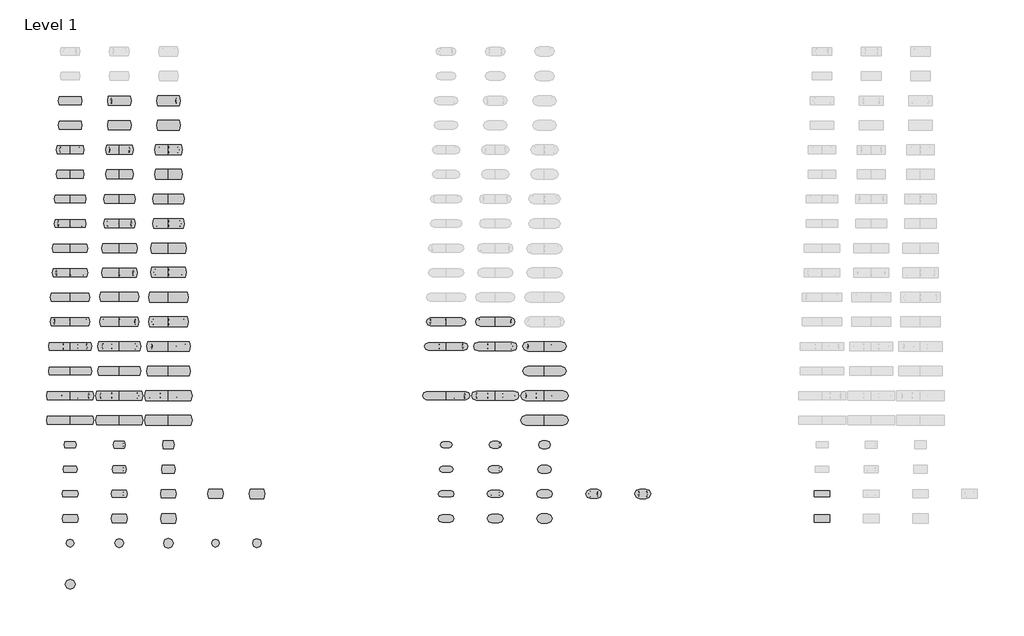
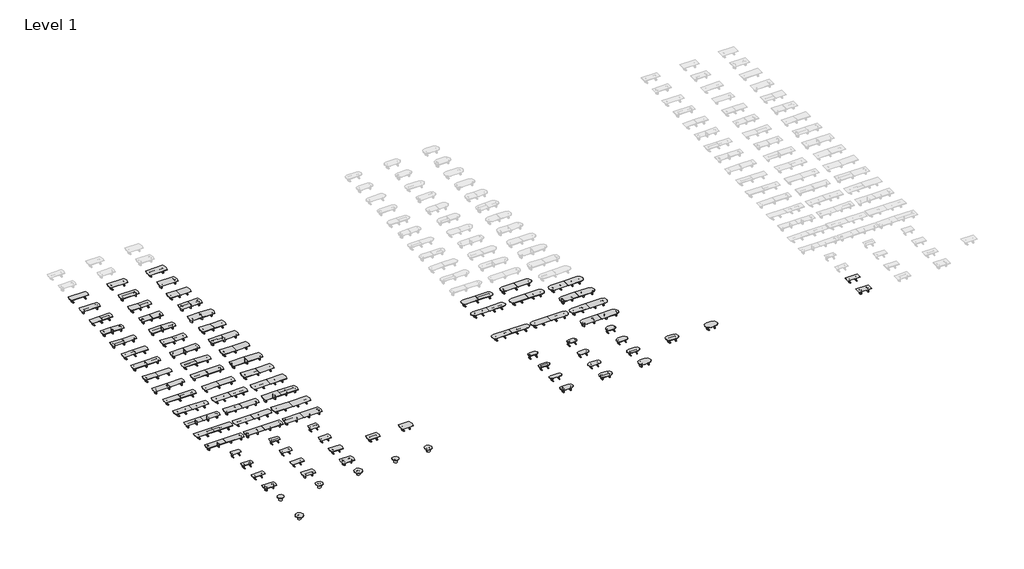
# One storey, part 1 of 3: 88 furniture elements.
"""IFC4 building model written with IfcOpenShell, lengths in millimetres."""

from ifc_helpers import new_model, si_unit, origin, place, context, project, spatial, transform, mapped, element, save
from components import furniture_36d_90888d20, furniture_36d_b0a119d2, furniture_36d_85cf5dbd, furniture_36d_65bd826c, furniture_36d_105f3647, furniture_36d_a4c65f50, furniture_36d_778fa427, furniture_42d_39f42cd1, furniture_42d_598d6e4a, furniture_42d_1a5c040f, furniture_42d_15517e0b, furniture_42d_837e3238, furniture_42d_156f3e94, furniture_48d_d70740bd, furniture_48d_c501f17e, furniture_48d_4c6bb4a2, furniture_48d_42d3a3b3, furniture_48d_33020ef1, furniture_48d_52e363a8, furniture_48d_5b8af901, furniture_48d_18b31c41, furniture_48d_39ecba71, furniture_48d_5b0fad48, furniture_48d_7a09ad00, furniture_48d_a73211f9, furniture_48d_5249ccaa, furniture_48d_af3dbdf1, furniture_48d_a914894a, furniture_48d_de5d3923, furniture_48d_c1489872, furniture_48d_b52bec6d, furniture_48d_55abd864, furniture_48d_6699b437, furniture_48d_e1b3172b, furniture_48d_4654b211, furniture_48d_b879e8bd, furniture_48d_139d7b73, furniture_48d_8a235267, furniture_48d_a0592bcc, furniture_48dia_laminate_7345cb1a, furniture_54d_cd79a7e8, furniture_54d_c281087e, furniture_54d_10f6a0d3, furniture_54d_50f8136e, furniture_54d_fdfb3cb8, furniture_54d_60159ee5, furniture_54d_1e4cc773, furniture_54d_85b6f77c, furniture_54d_fb529151, furniture_54d_86afbeeb, furniture_54d_db408c70, furniture_54d_e478c1e4, furniture_54d_4388903f, furniture_54d_81510d21, furniture_54d_43be985f, furniture_54d_9dfbddc2, furniture_54d_be0ee450, furniture_54d_ad1e54f7, furniture_54d_8884b3d5, furniture_54d_b8cd5568, furniture_54d_e9059d03, furniture_54dia_laminate_28bc5881, furniture_60d_133c9e18, furniture_60d_de2b4f89, furniture_60d_289ce9ac, furniture_60d_3bc78be8, furniture_60d_98e69a0a, furniture_60d_2776d96e, furniture_60d_e359e779, furniture_60d_94475512, furniture_60d_b6e10d91, furniture_60d_2c266338, furniture_60d_94ecbd19, furniture_60d_ac7cfff5, furniture_60d_aebbef4b, furniture_60d_6ced5be0, furniture_60d_7845ec57, furniture_60d_34ab8fc2, furniture_60d_ddcb2d8b, furniture_60d_2d9ece58, furniture_60d_6072927f, furniture_60d_cc4c99b4, furniture_60d_fc82c83b, furniture_60d_7dae6446, furniture_60dia_laminate_3f468efb

model = new_model("IFC4")

# Units and contexts
model_context = context("Model", 3, world=origin())
ifc_project = project(units=[si_unit("LENGTHUNIT", "METRE", prefix="MILLI")], contexts=[model_context])

# Site, building, storey
site = spatial("IfcSite", under=ifc_project)
building = spatial("IfcBuilding", under=site)
storey = spatial("IfcBuildingStorey", under=building, Name="Level 1", Elevation=0.0)

# Furniture
placement = place(None, origin())
furniture_36d_shape = furniture_36d_90888d20(model_context)
element("IfcFurniture", 1, ObjectType="Coalesse_AM_Table_Conference_ETable2_Rectangular_96in_AluminiumBase : 36D", at=placement, inside=storey, context=model_context, shape_type="MappedRepresentation", body=[
    mapped(furniture_36d_shape, transform((890409.9142043, -64461.6858647, 0.0), x_axis=(1.0, 0.0, 0.0), y_axis=(0.0, 1.0, 0.0), z_axis=(0.0, 0.0, 1.0))),
])
furniture_36d_2_shape = furniture_36d_b0a119d2(model_context)
element("IfcFurniture", 2, ObjectType="Coalesse_AM_Table_Conference_ETable2_Faceted_72in_AluminiumBase : 36D", at=placement, inside=storey, context=model_context, shape_type="MappedRepresentation", body=[
    mapped(furniture_36d_2_shape, transform((773859.3766429, -56841.6858647, 0.0), x_axis=(1.0, 0.0, 0.0), y_axis=(0.0, 1.0, 0.0), z_axis=(0.0, 0.0, 1.0))),
])
furniture_36d_3_shape = furniture_36d_85cf5dbd(model_context)
element("IfcFurniture", 3, ObjectType="Coalesse_AM_Table_Conference_ETable2_Faceted_84in_AluminiumBase : 36D", at=placement, inside=storey, context=model_context, shape_type="MappedRepresentation", body=[
    mapped(furniture_36d_3_shape, transform((773859.3766429, -60651.6858647, 0.0), x_axis=(1.0, 0.0, 0.0), y_axis=(0.0, 1.0, 0.0), z_axis=(0.0, 0.0, 1.0))),
])
furniture_36d_4_shape = furniture_36d_65bd826c(model_context)
element("IfcFurniture", 4, ObjectType="Coalesse_AM_Table_Conference_ETable2_Faceted_96in_AluminiumBase : 36D", at=placement, inside=storey, context=model_context, shape_type="MappedRepresentation", body=[
    mapped(furniture_36d_4_shape, transform((773859.3766429, -64461.6858647, 0.0), x_axis=(1.0, 0.0, 0.0), y_axis=(0.0, 1.0, 0.0), z_axis=(0.0, 0.0, 1.0))),
])
furniture_36d_5_shape = furniture_36d_105f3647(model_context)
element("IfcFurniture", 5, ObjectType="Coalesse_AM_Table_Conference_ETable2_Racetrack_72in_AluminiumBase : 36D", at=placement, inside=storey, context=model_context, shape_type="MappedRepresentation", body=[
    mapped(furniture_36d_5_shape, transform((832134.6454236, -56841.6858647, 0.0), x_axis=(1.0, 0.0, 0.0), y_axis=(0.0, 1.0, 0.0), z_axis=(0.0, 0.0, 1.0))),
])
furniture_36d_6_shape = furniture_36d_a4c65f50(model_context)
element("IfcFurniture", 6, ObjectType="Coalesse_AM_Table_Conference_ETable2_Racetrack_84in_AluminiumBase : 36D", at=placement, inside=storey, context=model_context, shape_type="MappedRepresentation", body=[
    mapped(furniture_36d_6_shape, transform((832134.6454236, -60651.6858647, 0.0), x_axis=(1.0, 0.0, 0.0), y_axis=(0.0, 1.0, 0.0), z_axis=(0.0, 0.0, 1.0))),
])
furniture_36d_7_shape = furniture_36d_778fa427(model_context)
element("IfcFurniture", 7, ObjectType="Coalesse_AM_Table_Conference_ETable2_Racetrack_96in_AluminiumBase : 36D", at=placement, inside=storey, context=model_context, shape_type="MappedRepresentation", body=[
    mapped(furniture_36d_7_shape, transform((832134.6454236, -64461.6858647, 0.0), x_axis=(1.0, 0.0, 0.0), y_axis=(0.0, 1.0, 0.0), z_axis=(0.0, 0.0, 1.0))),
])
furniture_42d_shape = furniture_42d_39f42cd1(model_context)
element("IfcFurniture", 8, ObjectType="Coalesse_AM_Table_Conference_ETable2_Faceted_72in_AluminiumBase : 42D", at=placement, inside=storey, context=model_context, shape_type="MappedRepresentation", body=[
    mapped(furniture_42d_shape, transform((781479.3766429, -56841.6858647, 0.0), x_axis=(1.0, 0.0, 0.0), y_axis=(0.0, 1.0, 0.0), z_axis=(0.0, 0.0, 1.0))),
])
furniture_42d_2_shape = furniture_42d_598d6e4a(model_context)
element("IfcFurniture", 9, ObjectType="Coalesse_AM_Table_Conference_ETable2_Faceted_84in_AluminiumBase : 42D", at=placement, inside=storey, context=model_context, shape_type="MappedRepresentation", body=[
    mapped(furniture_42d_2_shape, transform((781479.3766429, -60651.6858647, 0.0), x_axis=(1.0, 0.0, 0.0), y_axis=(0.0, 1.0, 0.0), z_axis=(0.0, 0.0, 1.0))),
])
furniture_42d_3_shape = furniture_42d_1a5c040f(model_context)
element("IfcFurniture", 10, ObjectType="Coalesse_AM_Table_Conference_ETable2_Faceted_96in_AluminiumBase : 42D", at=placement, inside=storey, context=model_context, shape_type="MappedRepresentation", body=[
    mapped(furniture_42d_3_shape, transform((781479.3766429, -64461.6858647, 0.0), x_axis=(1.0, 0.0, 0.0), y_axis=(0.0, 1.0, 0.0), z_axis=(0.0, 0.0, 1.0))),
])
furniture_42d_4_shape = furniture_42d_15517e0b(model_context)
element("IfcFurniture", 11, ObjectType="Coalesse_AM_Table_Conference_ETable2_Racetrack_72in_AluminiumBase : 42D", at=placement, inside=storey, context=model_context, shape_type="MappedRepresentation", body=[
    mapped(furniture_42d_4_shape, transform((839754.6454236, -56841.6858647, 0.0), x_axis=(1.0, 0.0, 0.0), y_axis=(0.0, 1.0, 0.0), z_axis=(0.0, 0.0, 1.0))),
])
furniture_42d_5_shape = furniture_42d_837e3238(model_context)
element("IfcFurniture", 12, ObjectType="Coalesse_AM_Table_Conference_ETable2_Racetrack_84in_AluminiumBase : 42D", at=placement, inside=storey, context=model_context, shape_type="MappedRepresentation", body=[
    mapped(furniture_42d_5_shape, transform((839754.6454236, -60651.6858647, 0.0), x_axis=(1.0, 0.0, 0.0), y_axis=(0.0, 1.0, 0.0), z_axis=(0.0, 0.0, 1.0))),
])
furniture_42d_6_shape = furniture_42d_156f3e94(model_context)
element("IfcFurniture", 13, ObjectType="Coalesse_AM_Table_Conference_ETable2_Racetrack_96in_AluminiumBase : 42D", at=placement, inside=storey, context=model_context, shape_type="MappedRepresentation", body=[
    mapped(furniture_42d_6_shape, transform((839754.6454236, -64461.6858647, 0.0), x_axis=(1.0, 0.0, 0.0), y_axis=(0.0, 1.0, 0.0), z_axis=(0.0, 0.0, 1.0))),
])
furniture_48d_shape = furniture_48d_d70740bd(model_context)
element("IfcFurniture", 14, ObjectType="Coalesse_AM_Table_Conference_ETable2_Rectangular_96in_TwoBase : 48D", at=placement, inside=storey, context=model_context, shape_type="MappedRepresentation", body=[
    mapped(furniture_48d_shape, transform((890409.9142043, -68271.6858647, 0.0), x_axis=(1.0, 0.0, 0.0), y_axis=(0.0, 1.0, 0.0), z_axis=(0.0, 0.0, 1.0))),
])
furniture_48d_2_shape = furniture_48d_c501f17e(model_context)
element("IfcFurniture", 15, ObjectType="Coalesse_AM_Table_Conference_ETable2_Faceted_12ft_AluminiumBase : 48D", at=placement, inside=storey, context=model_context, shape_type="MappedRepresentation", body=[
    mapped(furniture_48d_2_shape, transform((773859.3766429, -3501.6858647, 0.0), x_axis=(1.0, 0.0, 0.0), y_axis=(0.0, 1.0, 0.0), z_axis=(0.0, 0.0, 1.0))),
])
furniture_48d_3_shape = furniture_48d_4c6bb4a2(model_context)
element("IfcFurniture", 16, ObjectType="Coalesse_AM_Table_Conference_ETable2_Faceted_12ft_TwoBase : 48D", at=placement, inside=storey, context=model_context, shape_type="MappedRepresentation", body=[
    mapped(furniture_48d_3_shape, transform((773859.3766429, -7311.6858647, 0.0), x_axis=(1.0, 0.0, 0.0), y_axis=(0.0, 1.0, 0.0), z_axis=(0.0, 0.0, 1.0))),
])
furniture_48d_4_shape = furniture_48d_42d3a3b3(model_context)
element("IfcFurniture", 17, ObjectType="Coalesse_AM_Table_Conference_ETable2_Faceted_14ft_Aluminium Base : 48D", at=placement, inside=storey, context=model_context, shape_type="MappedRepresentation", body=[
    mapped(furniture_48d_4_shape, transform((773859.3766429, -11121.6858647, 0.0), x_axis=(1.0, 0.0, 0.0), y_axis=(0.0, 1.0, 0.0), z_axis=(0.0, 0.0, 1.0))),
])
furniture_48d_5_shape = furniture_48d_33020ef1(model_context)
element("IfcFurniture", 18, ObjectType="Coalesse_AM_Table_Conference_ETable2_Faceted_14ft_ThreeBase : 48D", at=placement, inside=storey, context=model_context, shape_type="MappedRepresentation", body=[
    mapped(furniture_48d_5_shape, transform((773859.3766429, -14931.6858647, 0.0), x_axis=(1.0, 0.0, 0.0), y_axis=(0.0, 1.0, 0.0), z_axis=(0.0, 0.0, 1.0))),
])
furniture_48d_6_shape = furniture_48d_52e363a8(model_context)
element("IfcFurniture", 19, ObjectType="Coalesse_AM_Table_Conference_ETable2_Faceted_16ft_ThreeBase : 48D", at=placement, inside=storey, context=model_context, shape_type="MappedRepresentation", body=[
    mapped(furniture_48d_6_shape, transform((773859.3766429, -18741.6858647, 0.0), x_axis=(1.0, 0.0, 0.0), y_axis=(0.0, 1.0, 0.0), z_axis=(0.0, 0.0, 1.0))),
])
furniture_48d_7_shape = furniture_48d_5b8af901(model_context)
element("IfcFurniture", 20, ObjectType="Coalesse_AM_Table_Conference_ETable2_Faceted_16ft_AluminiumBase : 48D", at=placement, inside=storey, context=model_context, shape_type="MappedRepresentation", body=[
    mapped(furniture_48d_7_shape, transform((773859.3766429, -22551.6858647, 0.0), x_axis=(1.0, 0.0, 0.0), y_axis=(0.0, 1.0, 0.0), z_axis=(0.0, 0.0, 1.0))),
])
furniture_48d_8_shape = furniture_48d_18b31c41(model_context)
element("IfcFurniture", 21, ObjectType="Coalesse_AM_Table_Conference_ETable2_Faceted_18ft_AluminiumBase : 48D", at=placement, inside=storey, context=model_context, shape_type="MappedRepresentation", body=[
    mapped(furniture_48d_8_shape, transform((773859.3766429, -30171.6858647, 0.0), x_axis=(1.0, 0.0, 0.0), y_axis=(0.0, 1.0, 0.0), z_axis=(0.0, 0.0, 1.0))),
])
furniture_48d_9_shape = furniture_48d_39ecba71(model_context)
element("IfcFurniture", 22, ObjectType="Coalesse_AM_Table_Conference_ETable2_Faceted_18ft_ThreeBase : 48D", at=placement, inside=storey, context=model_context, shape_type="MappedRepresentation", body=[
    mapped(furniture_48d_9_shape, transform((773859.3766429, -26361.6858647, 0.0), x_axis=(1.0, 0.0, 0.0), y_axis=(0.0, 1.0, 0.0), z_axis=(0.0, 0.0, 1.0))),
])
furniture_48d_10_shape = furniture_48d_5b0fad48(model_context)
element("IfcFurniture", 23, ObjectType="Coalesse_AM_Table_Conference_ETable2_Faceted_20ft_AluminiumBase : 48D", at=placement, inside=storey, context=model_context, shape_type="MappedRepresentation", body=[
    mapped(furniture_48d_10_shape, transform((773859.3766429, -37791.6858647, 0.0), x_axis=(1.0, 0.0, 0.0), y_axis=(0.0, 1.0, 0.0), z_axis=(0.0, 0.0, 1.0))),
])
furniture_48d_11_shape = furniture_48d_7a09ad00(model_context)
element("IfcFurniture", 24, ObjectType="Coalesse_AM_Table_Conference_ETable2_Faceted_20ft_ThreeBase : 48D", at=placement, inside=storey, context=model_context, shape_type="MappedRepresentation", body=[
    mapped(furniture_48d_11_shape, transform((773859.3766429, -33981.6858647, 0.0), x_axis=(1.0, 0.0, 0.0), y_axis=(0.0, 1.0, 0.0), z_axis=(0.0, 0.0, 1.0))),
])
furniture_48d_12_shape = furniture_48d_a73211f9(model_context)
element("IfcFurniture", 25, ObjectType="Coalesse_AM_Table_Conference_ETable2_Faceted_22ft_AluminiumBase : 48D", at=placement, inside=storey, context=model_context, shape_type="MappedRepresentation", body=[
    mapped(furniture_48d_12_shape, transform((773859.3766429, -41601.6858647, 0.0), x_axis=(1.0, 0.0, 0.0), y_axis=(0.0, 1.0, 0.0), z_axis=(0.0, 0.0, 1.0))),
])
furniture_48d_13_shape = furniture_48d_5249ccaa(model_context)
element("IfcFurniture", 26, ObjectType="Coalesse_AM_Table_Conference_ETable2_Faceted_22ft_FourBase : 48D", at=placement, inside=storey, context=model_context, shape_type="MappedRepresentation", body=[
    mapped(furniture_48d_13_shape, transform((773859.3766429, -45411.6858647, 0.0), x_axis=(1.0, 0.0, 0.0), y_axis=(0.0, 1.0, 0.0), z_axis=(0.0, 0.0, 1.0))),
])
furniture_48d_14_shape = furniture_48d_af3dbdf1(model_context)
element("IfcFurniture", 27, ObjectType="Coalesse_AM_Table_Conference_ETable2_Faceted_24ft_AluminiumBase : 48D", at=placement, inside=storey, context=model_context, shape_type="MappedRepresentation", body=[
    mapped(furniture_48d_14_shape, transform((773859.3766429, -49221.6858647, 0.0), x_axis=(1.0, 0.0, 0.0), y_axis=(0.0, 1.0, 0.0), z_axis=(0.0, 0.0, 1.0))),
])
furniture_48d_15_shape = furniture_48d_a914894a(model_context)
element("IfcFurniture", 28, ObjectType="Coalesse_AM_Table_Conference_ETable2_Faceted_24ft_FourBase : 48D", at=placement, inside=storey, context=model_context, shape_type="MappedRepresentation", body=[
    mapped(furniture_48d_15_shape, transform((773859.3766429, -53031.6858647, 0.0), x_axis=(1.0, 0.0, 0.0), y_axis=(0.0, 1.0, 0.0), z_axis=(0.0, 0.0, 1.0))),
])
furniture_48d_16_shape = furniture_48d_de5d3923(model_context)
element("IfcFurniture", 29, ObjectType="Coalesse_AM_Table_Conference_ETable2_Faceted_72in_AluminiumBase : 48D", at=placement, inside=storey, context=model_context, shape_type="MappedRepresentation", body=[
    mapped(furniture_48d_16_shape, transform((789099.3766429, -56841.6858647, 0.0), x_axis=(1.0, 0.0, 0.0), y_axis=(0.0, 1.0, 0.0), z_axis=(0.0, 0.0, 1.0))),
])
furniture_48d_17_shape = furniture_48d_c1489872(model_context)
element("IfcFurniture", 30, ObjectType="Coalesse_AM_Table_Conference_ETable2_Faceted_84in_AluminiumBase : 48D", at=placement, inside=storey, context=model_context, shape_type="MappedRepresentation", body=[
    mapped(furniture_48d_17_shape, transform((789099.3766429, -60651.6858647, 0.0), x_axis=(1.0, 0.0, 0.0), y_axis=(0.0, 1.0, 0.0), z_axis=(0.0, 0.0, 1.0))),
])
furniture_48d_18_shape = furniture_48d_b52bec6d(model_context)
element("IfcFurniture", 31, ObjectType="Coalesse_AM_Table_Conference_ETable2_Faceted_96in_AluminiumBase : 48D", at=placement, inside=storey, context=model_context, shape_type="MappedRepresentation", body=[
    mapped(furniture_48d_18_shape, transform((789099.3766429, -64461.6858647, 0.0), x_axis=(1.0, 0.0, 0.0), y_axis=(0.0, 1.0, 0.0), z_axis=(0.0, 0.0, 1.0))),
])
furniture_48d_19_shape = furniture_48d_55abd864(model_context)
element("IfcFurniture", 32, ObjectType="Coalesse_AM_Table_Conference_ETable2_Faceted_96in_TwoBase : 48D", at=placement, inside=storey, context=model_context, shape_type="MappedRepresentation", body=[
    mapped(furniture_48d_19_shape, transform((773859.3766429, -68271.6858647, 0.0), x_axis=(1.0, 0.0, 0.0), y_axis=(0.0, 1.0, 0.0), z_axis=(0.0, 0.0, 1.0))),
])
furniture_48d_20_shape = furniture_48d_6699b437(model_context)
element("IfcFurniture", 33, ObjectType="Coalesse_AM_Table_Conference_ETable2_Racetrack_72in_AluminiumBase : 48D", at=placement, inside=storey, context=model_context, shape_type="MappedRepresentation", body=[
    mapped(furniture_48d_20_shape, transform((847374.6454236, -56841.6858647, 0.0), x_axis=(1.0, 0.0, 0.0), y_axis=(0.0, 1.0, 0.0), z_axis=(0.0, 0.0, 1.0))),
])
furniture_48d_21_shape = furniture_48d_e1b3172b(model_context)
element("IfcFurniture", 34, ObjectType="Coalesse_AM_Table_Conference_ETable2_Racetrack_20ft_AluminiumBase : 48D", at=placement, inside=storey, context=model_context, shape_type="MappedRepresentation", body=[
    mapped(furniture_48d_21_shape, transform((832134.6454236, -37791.6858647, 0.0), x_axis=(1.0, 0.0, 0.0), y_axis=(0.0, 1.0, 0.0), z_axis=(0.0, 0.0, 1.0))),
])
furniture_48d_22_shape = furniture_48d_4654b211(model_context)
element("IfcFurniture", 35, ObjectType="Coalesse_AM_Table_Conference_ETable2_Racetrack_22ft_AluminiumBase : 48D", at=placement, inside=storey, context=model_context, shape_type="MappedRepresentation", body=[
    mapped(furniture_48d_22_shape, transform((832134.6454236, -41601.6858647, 0.0), x_axis=(1.0, 0.0, 0.0), y_axis=(0.0, 1.0, 0.0), z_axis=(0.0, 0.0, 1.0))),
])
furniture_48d_23_shape = furniture_48d_b879e8bd(model_context)
element("IfcFurniture", 36, ObjectType="Coalesse_AM_Table_Conference_ETable2_Racetrack_24ft_AluminiumBase : 48D", at=placement, inside=storey, context=model_context, shape_type="MappedRepresentation", body=[
    mapped(furniture_48d_23_shape, transform((832134.6454236, -49221.6858647, 0.0), x_axis=(1.0, 0.0, 0.0), y_axis=(0.0, 1.0, 0.0), z_axis=(0.0, 0.0, 1.0))),
])
furniture_48d_24_shape = furniture_48d_139d7b73(model_context)
element("IfcFurniture", 37, ObjectType="Coalesse_AM_Table_Conference_ETable2_Racetrack_84in_AluminiumBase : 48D", at=placement, inside=storey, context=model_context, shape_type="MappedRepresentation", body=[
    mapped(furniture_48d_24_shape, transform((847374.6454236, -60651.6858647, 0.0), x_axis=(1.0, 0.0, 0.0), y_axis=(0.0, 1.0, 0.0), z_axis=(0.0, 0.0, 1.0))),
])
furniture_48d_25_shape = furniture_48d_8a235267(model_context)
element("IfcFurniture", 38, ObjectType="Coalesse_AM_Table_Conference_ETable2_Racetrack_96in_AluminiumBase : 48D", at=placement, inside=storey, context=model_context, shape_type="MappedRepresentation", body=[
    mapped(furniture_48d_25_shape, transform((847374.6454236, -64461.6858647, 0.0), x_axis=(1.0, 0.0, 0.0), y_axis=(0.0, 1.0, 0.0), z_axis=(0.0, 0.0, 1.0))),
])
furniture_48d_26_shape = furniture_48d_a0592bcc(model_context)
element("IfcFurniture", 39, ObjectType="Coalesse_AM_Table_Conference_ETable2_Racetrack_96in_TwoBase : 48D", at=placement, inside=storey, context=model_context, shape_type="MappedRepresentation", body=[
    mapped(furniture_48d_26_shape, transform((832134.6454236, -68271.6858647, 0.0), x_axis=(1.0, 0.0, 0.0), y_axis=(0.0, 1.0, 0.0), z_axis=(0.0, 0.0, 1.0))),
])
furniture_48dia_laminate_shape = furniture_48dia_laminate_7345cb1a(model_context)
element("IfcFurniture", 40, ObjectType="Coalesse_AM_Table_Conference_ETable2_Round : 48Dia - Laminate", at=placement, inside=storey, context=model_context, shape_type="MappedRepresentation", body=[
    mapped(furniture_48dia_laminate_shape, transform((773859.3766429, -72081.6858647, 0.0), x_axis=(1.0, 0.0, 0.0), y_axis=(0.0, 1.0, 0.0), z_axis=(0.0, 0.0, 1.0))),
])
element("IfcFurniture", 41, ObjectType="Coalesse_AM_Table_Conference_ETable2_Round : 48Dia - Veneer", at=placement, inside=storey, context=model_context, shape_type="MappedRepresentation", body=[
    mapped(furniture_48dia_laminate_shape, transform((796388.9637927, -72081.6858647, 0.0), x_axis=(1.0, 0.0, 0.0), y_axis=(0.0, 1.0, 0.0), z_axis=(0.0, 0.0, 1.0))),
])
furniture_54d_shape = furniture_54d_cd79a7e8(model_context)
element("IfcFurniture", 42, ObjectType="Coalesse_AM_Table_Conference_ETable2_Faceted_96in_AluminiumBase : 54D", at=placement, inside=storey, context=model_context, shape_type="MappedRepresentation", body=[
    mapped(furniture_54d_shape, transform((796388.9637927, -64461.6858647, 0.0), x_axis=(1.0, 0.0, 0.0), y_axis=(0.0, 1.0, 0.0), z_axis=(0.0, 0.0, 1.0))),
])
furniture_54d_2_shape = furniture_54d_c281087e(model_context)
element("IfcFurniture", 43, ObjectType="Coalesse_AM_Table_Conference_ETable2_Faceted_12ft_AluminiumBase : 54D", at=placement, inside=storey, context=model_context, shape_type="MappedRepresentation", body=[
    mapped(furniture_54d_2_shape, transform((781479.3766429, -3501.6858647, 0.0), x_axis=(1.0, 0.0, 0.0), y_axis=(0.0, 1.0, 0.0), z_axis=(0.0, 0.0, 1.0))),
])
furniture_54d_3_shape = furniture_54d_10f6a0d3(model_context)
element("IfcFurniture", 44, ObjectType="Coalesse_AM_Table_Conference_ETable2_Faceted_12ft_TwoBase : 54D", at=placement, inside=storey, context=model_context, shape_type="MappedRepresentation", body=[
    mapped(furniture_54d_3_shape, transform((781479.3766429, -7311.6858647, 0.0), x_axis=(1.0, 0.0, 0.0), y_axis=(0.0, 1.0, 0.0), z_axis=(0.0, 0.0, 1.0))),
])
furniture_54d_4_shape = furniture_54d_50f8136e(model_context)
element("IfcFurniture", 45, ObjectType="Coalesse_AM_Table_Conference_ETable2_Faceted_14ft_Aluminium Base : 54D", at=placement, inside=storey, context=model_context, shape_type="MappedRepresentation", body=[
    mapped(furniture_54d_4_shape, transform((781479.3766429, -11096.2858647, 0.0), x_axis=(1.0, 0.0, 0.0), y_axis=(0.0, 1.0, 0.0), z_axis=(0.0, 0.0, 1.0))),
])
furniture_54d_5_shape = furniture_54d_fdfb3cb8(model_context)
element("IfcFurniture", 46, ObjectType="Coalesse_AM_Table_Conference_ETable2_Faceted_14ft_ThreeBase : 54D", at=placement, inside=storey, context=model_context, shape_type="MappedRepresentation", body=[
    mapped(furniture_54d_5_shape, transform((781479.3766429, -14931.6858647, 0.0), x_axis=(1.0, 0.0, 0.0), y_axis=(0.0, 1.0, 0.0), z_axis=(0.0, 0.0, 1.0))),
])
furniture_54d_6_shape = furniture_54d_60159ee5(model_context)
element("IfcFurniture", 47, ObjectType="Coalesse_AM_Table_Conference_ETable2_Faceted_16ft_ThreeBase : 54D", at=placement, inside=storey, context=model_context, shape_type="MappedRepresentation", body=[
    mapped(furniture_54d_6_shape, transform((781479.3766429, -18741.6858647, 0.0), x_axis=(1.0, 0.0, 0.0), y_axis=(0.0, 1.0, 0.0), z_axis=(0.0, 0.0, 1.0))),
])
furniture_54d_7_shape = furniture_54d_1e4cc773(model_context)
element("IfcFurniture", 48, ObjectType="Coalesse_AM_Table_Conference_ETable2_Faceted_16ft_AluminiumBase : 54D", at=placement, inside=storey, context=model_context, shape_type="MappedRepresentation", body=[
    mapped(furniture_54d_7_shape, transform((781479.3766429, -22551.6858647, 0.0), x_axis=(1.0, 0.0, 0.0), y_axis=(0.0, 1.0, 0.0), z_axis=(0.0, 0.0, 1.0))),
])
furniture_54d_8_shape = furniture_54d_85b6f77c(model_context)
element("IfcFurniture", 49, ObjectType="Coalesse_AM_Table_Conference_ETable2_Faceted_18ft_AluminiumBase : 54D", at=placement, inside=storey, context=model_context, shape_type="MappedRepresentation", body=[
    mapped(furniture_54d_8_shape, transform((781479.3766429, -30171.6858647, 0.0), x_axis=(1.0, 0.0, 0.0), y_axis=(0.0, 1.0, 0.0), z_axis=(0.0, 0.0, 1.0))),
])
furniture_54d_9_shape = furniture_54d_fb529151(model_context)
element("IfcFurniture", 50, ObjectType="Coalesse_AM_Table_Conference_ETable2_Faceted_18ft_ThreeBase : 54D", at=placement, inside=storey, context=model_context, shape_type="MappedRepresentation", body=[
    mapped(furniture_54d_9_shape, transform((781479.3766429, -26361.6858647, 0.0), x_axis=(1.0, 0.0, 0.0), y_axis=(0.0, 1.0, 0.0), z_axis=(0.0, 0.0, 1.0))),
])
furniture_54d_10_shape = furniture_54d_86afbeeb(model_context)
element("IfcFurniture", 51, ObjectType="Coalesse_AM_Table_Conference_ETable2_Faceted_20ft_AluminiumBase : 54D", at=placement, inside=storey, context=model_context, shape_type="MappedRepresentation", body=[
    mapped(furniture_54d_10_shape, transform((781479.3766429, -37791.6858647, 0.0), x_axis=(1.0, 0.0, 0.0), y_axis=(0.0, 1.0, 0.0), z_axis=(0.0, 0.0, 1.0))),
])
furniture_54d_11_shape = furniture_54d_db408c70(model_context)
element("IfcFurniture", 52, ObjectType="Coalesse_AM_Table_Conference_ETable2_Faceted_20ft_ThreeBase : 54D", at=placement, inside=storey, context=model_context, shape_type="MappedRepresentation", body=[
    mapped(furniture_54d_11_shape, transform((781479.3766429, -33905.4858647, 0.0), x_axis=(1.0, 0.0, 0.0), y_axis=(0.0, 1.0, 0.0), z_axis=(0.0, 0.0, 1.0))),
])
furniture_54d_12_shape = furniture_54d_e478c1e4(model_context)
element("IfcFurniture", 53, ObjectType="Coalesse_AM_Table_Conference_ETable2_Faceted_22ft_AluminiumBase : 54D", at=placement, inside=storey, context=model_context, shape_type="MappedRepresentation", body=[
    mapped(furniture_54d_12_shape, transform((781479.3766429, -41576.2858647, 0.0), x_axis=(1.0, 0.0, 0.0), y_axis=(0.0, 1.0, 0.0), z_axis=(0.0, 0.0, 1.0))),
])
furniture_54d_13_shape = furniture_54d_4388903f(model_context)
element("IfcFurniture", 54, ObjectType="Coalesse_AM_Table_Conference_ETable2_Faceted_22ft_FourBase : 54D", at=placement, inside=storey, context=model_context, shape_type="MappedRepresentation", body=[
    mapped(furniture_54d_13_shape, transform((781479.3766429, -45411.6858647, 0.0), x_axis=(1.0, 0.0, 0.0), y_axis=(0.0, 1.0, 0.0), z_axis=(0.0, 0.0, 1.0))),
])
furniture_54d_14_shape = furniture_54d_81510d21(model_context)
element("IfcFurniture", 55, ObjectType="Coalesse_AM_Table_Conference_ETable2_Faceted_24ft_AluminiumBase : 54D", at=placement, inside=storey, context=model_context, shape_type="MappedRepresentation", body=[
    mapped(furniture_54d_14_shape, transform((781479.3766429, -49221.6858647, 0.0), x_axis=(1.0, 0.0, 0.0), y_axis=(0.0, 1.0, 0.0), z_axis=(0.0, 0.0, 1.0))),
])
furniture_54d_15_shape = furniture_54d_43be985f(model_context)
element("IfcFurniture", 56, ObjectType="Coalesse_AM_Table_Conference_ETable2_Faceted_24ft_FourBase : 54D", at=placement, inside=storey, context=model_context, shape_type="MappedRepresentation", body=[
    mapped(furniture_54d_15_shape, transform((781479.3766429, -53031.6858647, 0.0), x_axis=(1.0, 0.0, 0.0), y_axis=(0.0, 1.0, 0.0), z_axis=(0.0, 0.0, 1.0))),
])
furniture_54d_16_shape = furniture_54d_9dfbddc2(model_context)
element("IfcFurniture", 57, ObjectType="Coalesse_AM_Table_Conference_ETable2_Faceted_96in_TwoBase : 54D", at=placement, inside=storey, context=model_context, shape_type="MappedRepresentation", body=[
    mapped(furniture_54d_16_shape, transform((781479.3766429, -68271.6858647, 0.0), x_axis=(1.0, 0.0, 0.0), y_axis=(0.0, 1.0, 0.0), z_axis=(0.0, 0.0, 1.0))),
])
furniture_54d_17_shape = furniture_54d_be0ee450(model_context)
element("IfcFurniture", 58, ObjectType="Coalesse_AM_Table_Conference_ETable2_Racetrack_20ft_AluminiumBase : 54D", at=placement, inside=storey, context=model_context, shape_type="MappedRepresentation", body=[
    mapped(furniture_54d_17_shape, transform((839754.6454236, -37791.6858647, 0.0), x_axis=(1.0, 0.0, 0.0), y_axis=(0.0, 1.0, 0.0), z_axis=(0.0, 0.0, 1.0))),
])
furniture_54d_18_shape = furniture_54d_ad1e54f7(model_context)
element("IfcFurniture", 59, ObjectType="Coalesse_AM_Table_Conference_ETable2_Racetrack_22ft_AluminiumBase : 54D", at=placement, inside=storey, context=model_context, shape_type="MappedRepresentation", body=[
    mapped(furniture_54d_18_shape, transform((839754.6454236, -41601.6858647, 0.0), x_axis=(1.0, 0.0, 0.0), y_axis=(0.0, 1.0, 0.0), z_axis=(0.0, 0.0, 1.0))),
])
furniture_54d_19_shape = furniture_54d_8884b3d5(model_context)
element("IfcFurniture", 60, ObjectType="Coalesse_AM_Table_Conference_ETable2_Racetrack_24ft_AluminiumBase : 54D", at=placement, inside=storey, context=model_context, shape_type="MappedRepresentation", body=[
    mapped(furniture_54d_19_shape, transform((839754.6454236, -49221.6858647, 0.0), x_axis=(1.0, 0.0, 0.0), y_axis=(0.0, 1.0, 0.0), z_axis=(0.0, 0.0, 1.0))),
])
furniture_54d_20_shape = furniture_54d_b8cd5568(model_context)
element("IfcFurniture", 61, ObjectType="Coalesse_AM_Table_Conference_ETable2_Racetrack_96in_AluminiumBase : 54D", at=placement, inside=storey, context=model_context, shape_type="MappedRepresentation", body=[
    mapped(furniture_54d_20_shape, transform((854994.6454236, -64461.6858647, 0.0), x_axis=(1.0, 0.0, 0.0), y_axis=(0.0, 1.0, 0.0), z_axis=(0.0, 0.0, 1.0))),
])
furniture_54d_21_shape = furniture_54d_e9059d03(model_context)
element("IfcFurniture", 62, ObjectType="Coalesse_AM_Table_Conference_ETable2_Racetrack_96in_TwoBase : 54D", at=placement, inside=storey, context=model_context, shape_type="MappedRepresentation", body=[
    mapped(furniture_54d_21_shape, transform((839754.6454236, -68271.6858647, 0.0), x_axis=(1.0, 0.0, 0.0), y_axis=(0.0, 1.0, 0.0), z_axis=(0.0, 0.0, 1.0))),
])
furniture_54dia_laminate_shape = furniture_54dia_laminate_28bc5881(model_context)
element("IfcFurniture", 63, ObjectType="Coalesse_AM_Table_Conference_ETable2_Round : 54Dia - Laminate", at=placement, inside=storey, context=model_context, shape_type="MappedRepresentation", body=[
    mapped(furniture_54dia_laminate_shape, transform((781479.3766429, -72081.6858647, 0.0), x_axis=(1.0, 0.0, 0.0), y_axis=(0.0, 1.0, 0.0), z_axis=(0.0, 0.0, 1.0))),
])
element("IfcFurniture", 64, ObjectType="Coalesse_AM_Table_Conference_ETable2_Round : 54Dia - Veneer", at=placement, inside=storey, context=model_context, shape_type="MappedRepresentation", body=[
    mapped(furniture_54dia_laminate_shape, transform((802815.3766429, -72081.6858647, 0.0), x_axis=(1.0, 0.0, 0.0), y_axis=(0.0, 1.0, 0.0), z_axis=(0.0, 0.0, 1.0))),
])
furniture_60d_shape = furniture_60d_133c9e18(model_context)
element("IfcFurniture", 65, ObjectType="Coalesse_AM_Table_Conference_ETable2_Faceted_96in_AluminiumBase : 60D", at=placement, inside=storey, context=model_context, shape_type="MappedRepresentation", body=[
    mapped(furniture_60d_shape, transform((802815.3766429, -64461.6858647, 0.0), x_axis=(1.0, 0.0, 0.0), y_axis=(0.0, 1.0, 0.0), z_axis=(0.0, 0.0, 1.0))),
])
furniture_60d_2_shape = furniture_60d_de2b4f89(model_context)
element("IfcFurniture", 66, ObjectType="Coalesse_AM_Table_Conference_ETable2_Faceted_12ft_AluminiumBase : 60D", at=placement, inside=storey, context=model_context, shape_type="MappedRepresentation", body=[
    mapped(furniture_60d_2_shape, transform((789099.3766429, -3501.6858647, 0.0), x_axis=(1.0, 0.0, 0.0), y_axis=(0.0, 1.0, 0.0), z_axis=(0.0, 0.0, 1.0))),
])
furniture_60d_3_shape = furniture_60d_289ce9ac(model_context)
element("IfcFurniture", 67, ObjectType="Coalesse_AM_Table_Conference_ETable2_Faceted_12ft_TwoBase : 60D", at=placement, inside=storey, context=model_context, shape_type="MappedRepresentation", body=[
    mapped(furniture_60d_3_shape, transform((789099.3766429, -7311.6858647, 0.0), x_axis=(1.0, 0.0, 0.0), y_axis=(0.0, 1.0, 0.0), z_axis=(0.0, 0.0, 1.0))),
])
furniture_60d_4_shape = furniture_60d_3bc78be8(model_context)
element("IfcFurniture", 68, ObjectType="Coalesse_AM_Table_Conference_ETable2_Faceted_14ft_Aluminium Base : 60D", at=placement, inside=storey, context=model_context, shape_type="MappedRepresentation", body=[
    mapped(furniture_60d_4_shape, transform((789099.3766429, -11121.6858647, 0.0), x_axis=(1.0, 0.0, 0.0), y_axis=(0.0, 1.0, 0.0), z_axis=(0.0, 0.0, 1.0))),
])
furniture_60d_5_shape = furniture_60d_98e69a0a(model_context)
element("IfcFurniture", 69, ObjectType="Coalesse_AM_Table_Conference_ETable2_Faceted_14ft_ThreeBase : 60D", at=placement, inside=storey, context=model_context, shape_type="MappedRepresentation", body=[
    mapped(furniture_60d_5_shape, transform((789099.3766429, -14931.6858647, 0.0), x_axis=(1.0, 0.0, 0.0), y_axis=(0.0, 1.0, 0.0), z_axis=(0.0, 0.0, 1.0))),
])
furniture_60d_6_shape = furniture_60d_2776d96e(model_context)
element("IfcFurniture", 70, ObjectType="Coalesse_AM_Table_Conference_ETable2_Faceted_16ft_ThreeBase : 60D", at=placement, inside=storey, context=model_context, shape_type="MappedRepresentation", body=[
    mapped(furniture_60d_6_shape, transform((789099.3766429, -18741.6858647, 0.0), x_axis=(1.0, 0.0, 0.0), y_axis=(0.0, 1.0, 0.0), z_axis=(0.0, 0.0, 1.0))),
])
furniture_60d_7_shape = furniture_60d_e359e779(model_context)
element("IfcFurniture", 71, ObjectType="Coalesse_AM_Table_Conference_ETable2_Faceted_16ft_AluminiumBase : 60D", at=placement, inside=storey, context=model_context, shape_type="MappedRepresentation", body=[
    mapped(furniture_60d_7_shape, transform((789099.3766429, -22551.6858647, 0.0), x_axis=(1.0, 0.0, 0.0), y_axis=(0.0, 1.0, 0.0), z_axis=(0.0, 0.0, 1.0))),
])
furniture_60d_8_shape = furniture_60d_94475512(model_context)
element("IfcFurniture", 72, ObjectType="Coalesse_AM_Table_Conference_ETable2_Faceted_18ft_AluminiumBase : 60D", at=placement, inside=storey, context=model_context, shape_type="MappedRepresentation", body=[
    mapped(furniture_60d_8_shape, transform((789099.3766429, -30095.4858647, 0.0), x_axis=(1.0, 0.0, 0.0), y_axis=(0.0, 1.0, 0.0), z_axis=(0.0, 0.0, 1.0))),
])
furniture_60d_9_shape = furniture_60d_b6e10d91(model_context)
element("IfcFurniture", 73, ObjectType="Coalesse_AM_Table_Conference_ETable2_Faceted_18ft_ThreeBase : 60D", at=placement, inside=storey, context=model_context, shape_type="MappedRepresentation", body=[
    mapped(furniture_60d_9_shape, transform((789099.3766429, -26361.6858647, 0.0), x_axis=(1.0, 0.0, 0.0), y_axis=(0.0, 1.0, 0.0), z_axis=(0.0, 0.0, 1.0))),
])
furniture_60d_10_shape = furniture_60d_2c266338(model_context)
element("IfcFurniture", 74, ObjectType="Coalesse_AM_Table_Conference_ETable2_Faceted_20ft_AluminiumBase : 60D", at=placement, inside=storey, context=model_context, shape_type="MappedRepresentation", body=[
    mapped(furniture_60d_10_shape, transform((789099.3766429, -37791.6858647, 0.0), x_axis=(1.0, 0.0, 0.0), y_axis=(0.0, 1.0, 0.0), z_axis=(0.0, 0.0, 1.0))),
])
furniture_60d_11_shape = furniture_60d_94ecbd19(model_context)
element("IfcFurniture", 75, ObjectType="Coalesse_AM_Table_Conference_ETable2_Faceted_20ft_ThreeBase : 60D", at=placement, inside=storey, context=model_context, shape_type="MappedRepresentation", body=[
    mapped(furniture_60d_11_shape, transform((789099.3766429, -33981.6858647, 0.0), x_axis=(1.0, 0.0, 0.0), y_axis=(0.0, 1.0, 0.0), z_axis=(0.0, 0.0, 1.0))),
])
furniture_60d_12_shape = furniture_60d_ac7cfff5(model_context)
element("IfcFurniture", 76, ObjectType="Coalesse_AM_Table_Conference_ETable2_Faceted_22ft_AluminiumBase : 60D", at=placement, inside=storey, context=model_context, shape_type="MappedRepresentation", body=[
    mapped(furniture_60d_12_shape, transform((789099.3766429, -41601.6858647, 0.0), x_axis=(1.0, 0.0, 0.0), y_axis=(0.0, 1.0, 0.0), z_axis=(0.0, 0.0, 1.0))),
])
furniture_60d_13_shape = furniture_60d_aebbef4b(model_context)
element("IfcFurniture", 77, ObjectType="Coalesse_AM_Table_Conference_ETable2_Faceted_22ft_FourBase : 60D", at=placement, inside=storey, context=model_context, shape_type="MappedRepresentation", body=[
    mapped(furniture_60d_13_shape, transform((789099.3766429, -45411.6858647, 0.0), x_axis=(1.0, 0.0, 0.0), y_axis=(0.0, 1.0, 0.0), z_axis=(0.0, 0.0, 1.0))),
])
furniture_60d_14_shape = furniture_60d_6ced5be0(model_context)
element("IfcFurniture", 78, ObjectType="Coalesse_AM_Table_Conference_ETable2_Faceted_24ft_AluminiumBase : 60D", at=placement, inside=storey, context=model_context, shape_type="MappedRepresentation", body=[
    mapped(furniture_60d_14_shape, transform((789099.3766429, -49221.6858647, 0.0), x_axis=(1.0, 0.0, 0.0), y_axis=(0.0, 1.0, 0.0), z_axis=(0.0, 0.0, 1.0))),
])
furniture_60d_15_shape = furniture_60d_7845ec57(model_context)
element("IfcFurniture", 79, ObjectType="Coalesse_AM_Table_Conference_ETable2_Faceted_24ft_FourBase : 60D", at=placement, inside=storey, context=model_context, shape_type="MappedRepresentation", body=[
    mapped(furniture_60d_15_shape, transform((789099.3766429, -53031.6858647, 0.0), x_axis=(1.0, 0.0, 0.0), y_axis=(0.0, 1.0, 0.0), z_axis=(0.0, 0.0, 1.0))),
])
furniture_60d_16_shape = furniture_60d_34ab8fc2(model_context)
element("IfcFurniture", 80, ObjectType="Coalesse_AM_Table_Conference_ETable2_Faceted_96in_TwoBase : 60D", at=placement, inside=storey, context=model_context, shape_type="MappedRepresentation", body=[
    mapped(furniture_60d_16_shape, transform((789099.3766429, -68271.6858647, 0.0), x_axis=(1.0, 0.0, 0.0), y_axis=(0.0, 1.0, 0.0), z_axis=(0.0, 0.0, 1.0))),
])
furniture_60d_17_shape = furniture_60d_ddcb2d8b(model_context)
element("IfcFurniture", 81, ObjectType="Coalesse_AM_Table_Conference_ETable2_Racetrack_22ft_AluminiumBase : 60D", at=placement, inside=storey, context=model_context, shape_type="MappedRepresentation", body=[
    mapped(furniture_60d_17_shape, transform((847374.6454236, -41601.6858647, 0.0), x_axis=(1.0, 0.0, 0.0), y_axis=(0.0, 1.0, 0.0), z_axis=(0.0, 0.0, 1.0))),
])
furniture_60d_18_shape = furniture_60d_2d9ece58(model_context)
element("IfcFurniture", 82, ObjectType="Coalesse_AM_Table_Conference_ETable2_Racetrack_22ft_FourBase : 60D", at=placement, inside=storey, context=model_context, shape_type="MappedRepresentation", body=[
    mapped(furniture_60d_18_shape, transform((847374.6454236, -45411.6858647, 0.0), x_axis=(1.0, 0.0, 0.0), y_axis=(0.0, 1.0, 0.0), z_axis=(0.0, 0.0, 1.0))),
])
furniture_60d_19_shape = furniture_60d_6072927f(model_context)
element("IfcFurniture", 83, ObjectType="Coalesse_AM_Table_Conference_ETable2_Racetrack_24ft_AluminiumBase : 60D", at=placement, inside=storey, context=model_context, shape_type="MappedRepresentation", body=[
    mapped(furniture_60d_19_shape, transform((847374.6454236, -49221.6858647, 0.0), x_axis=(1.0, 0.0, 0.0), y_axis=(0.0, 1.0, 0.0), z_axis=(0.0, 0.0, 1.0))),
])
furniture_60d_20_shape = furniture_60d_cc4c99b4(model_context)
element("IfcFurniture", 84, ObjectType="Coalesse_AM_Table_Conference_ETable2_Racetrack_24ft_FourBase : 60D", at=placement, inside=storey, context=model_context, shape_type="MappedRepresentation", body=[
    mapped(furniture_60d_20_shape, transform((847374.6454236, -53031.6858647, 0.0), x_axis=(1.0, 0.0, 0.0), y_axis=(0.0, 1.0, 0.0), z_axis=(0.0, 0.0, 1.0))),
])
furniture_60d_21_shape = furniture_60d_fc82c83b(model_context)
element("IfcFurniture", 85, ObjectType="Coalesse_AM_Table_Conference_ETable2_Racetrack_96in_AluminiumBase : 60D", at=placement, inside=storey, context=model_context, shape_type="MappedRepresentation", body=[
    mapped(furniture_60d_21_shape, transform((862614.6454236, -64461.6858647, 0.0), x_axis=(1.0, 0.0, 0.0), y_axis=(0.0, 1.0, 0.0), z_axis=(0.0, 0.0, 1.0))),
])
furniture_60d_22_shape = furniture_60d_7dae6446(model_context)
element("IfcFurniture", 86, ObjectType="Coalesse_AM_Table_Conference_ETable2_Racetrack_96in_TwoBase : 60D", at=placement, inside=storey, context=model_context, shape_type="MappedRepresentation", body=[
    mapped(furniture_60d_22_shape, transform((847374.6454236, -68271.6858647, 0.0), x_axis=(1.0, 0.0, 0.0), y_axis=(0.0, 1.0, 0.0), z_axis=(0.0, 0.0, 1.0))),
])
furniture_60dia_laminate_shape = furniture_60dia_laminate_3f468efb(model_context)
element("IfcFurniture", 87, ObjectType="Coalesse_AM_Table_Conference_ETable2_Round : 60Dia - Laminate", at=placement, inside=storey, context=model_context, shape_type="MappedRepresentation", body=[
    mapped(furniture_60dia_laminate_shape, transform((789099.3766429, -72081.6858647, 0.0), x_axis=(1.0, 0.0, 0.0), y_axis=(0.0, 1.0, 0.0), z_axis=(0.0, 0.0, 1.0))),
])
element("IfcFurniture", 88, ObjectType="Coalesse_AM_Table_Conference_ETable2_Round : 60Dia - Veneer", at=placement, inside=storey, context=model_context, shape_type="MappedRepresentation", body=[
    mapped(furniture_60dia_laminate_shape, transform((773859.3766429, -78482.4858647, 0.0), x_axis=(1.0, 0.0, 0.0), y_axis=(0.0, 1.0, 0.0), z_axis=(0.0, 0.0, 1.0))),
])

save(model, "model.ifc")
